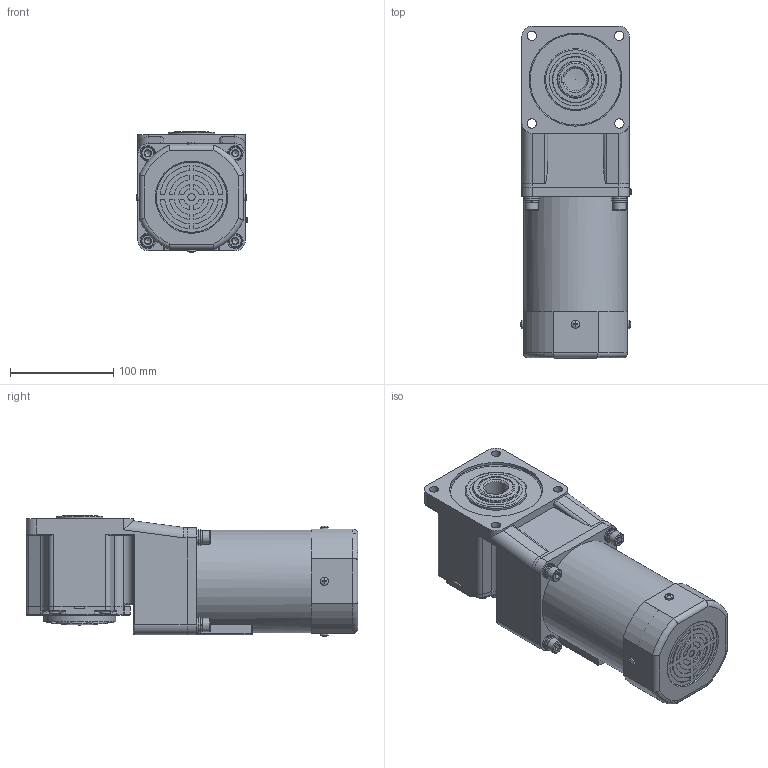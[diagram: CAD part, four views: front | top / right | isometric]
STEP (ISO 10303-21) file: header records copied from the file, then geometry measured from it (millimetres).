
FILE_DESCRIPTION(/* description */ (''),/* implementation_level */ '2;1');
FILE_NAME(/* name */ '100+直角中空-阻尼风叶-140W.stp',/* time_stamp */ '2022-09-27T13:05:44+08:00',/* author */ (''),/* organization */ (''),/* preprocessor_version */ 'ST-DEVELOPER v16.7',/* originating_system */ 'SIEMENS PLM Software NX 1899',/* authorisation */ '');
FILE_SCHEMA (('AP203_CONFIGURATION_CONTROLLED_3D_DESIGN_OF_MECHANICAL_PARTS_AND_ASSEMBLIES_MIM_LF { 1 0 10303 403 2 1 2}'));
Length unit declared in the file: millimetre
Products named in the file (1): yf1835C809DDug99
Bounding box: 107.82 x 321.5 x 116.95 mm (x, y, z)
Volume: 2799374.3 mm3; surface area: 226392.5 mm2
Topology: 15 solids, 15 shells, 784 faces, 1874 edges, 1175 vertices
Faces by surface type: plane 439, cylinder 228, torus 58, cone 48, sphere 6, bspline 5
Full cylindrical faces by diameter (mm): 3.3 x2, 3.5 x2, 5.6 x1, 6 x8, 6.8 x4, 7 x1, 7.76 x4, 8 x4, 8.4 x4, 9 x8, 9.5 x4, 13 x4, 14 x4, 15 x4, 45 x1, 52 x1, 52.5 x1, 60 x1, 65 x1, 65.5 x1, 70 x1, 77 x1, 90 x1, 98 x2, 100 x1
Entity records: 23571 total; most frequent: CARTESIAN_POINT 4613, DIRECTION 3785, ORIENTED_EDGE 3386, EDGE_CURVE 1693, AXIS2_PLACEMENT_3D 1459, VERTEX_POINT 1120, EDGE_LOOP 985, LINE 867
